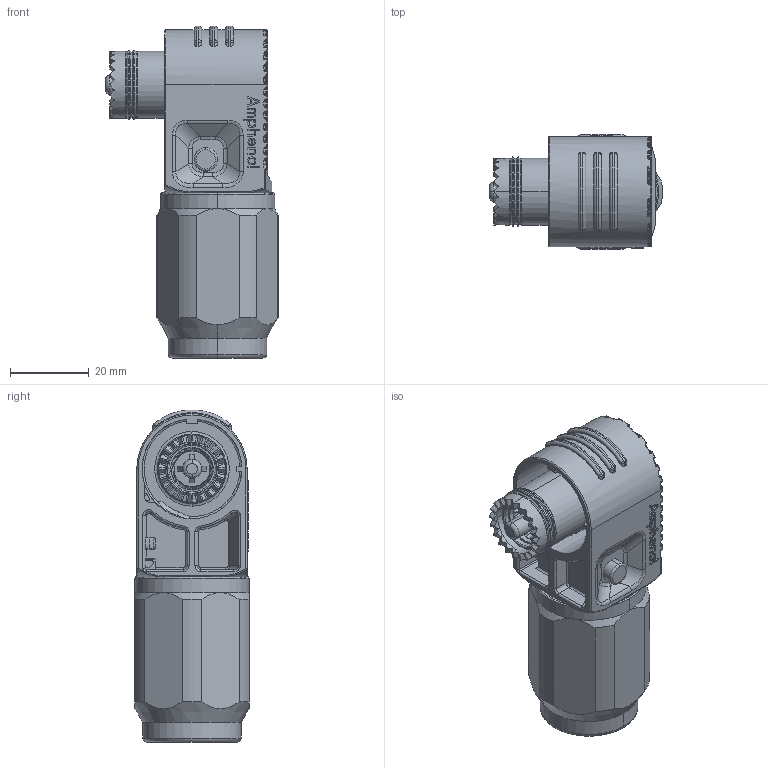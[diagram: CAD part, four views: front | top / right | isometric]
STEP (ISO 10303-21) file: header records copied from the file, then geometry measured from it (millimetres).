
FILE_DESCRIPTION((''),'2;1');
FILE_NAME('C10-730190-X800_G','2017-01-19T',('SEVEN.XIE'),(''),'PRO/ENGINEER BY PARAMETRIC TECHNOLOGY CORPORATION, 2013230','PRO/ENGINEER BY PARAMETRIC TECHNOLOGY CORPORATION, 2013230','');
FILE_SCHEMA(('CONFIG_CONTROL_DESIGN'));
Products named in the file (1): C10-730190-X800_G
Bounding box: 43.98 x 29 x 84.45 mm (x, y, z)
Volume: 41273.2 mm3; surface area: 32795.9 mm2
Topology: 1 solids, 1 shells, 1985 faces, 5244 edges, 3233 vertices
Faces by surface type: plane 893, cylinder 580, torus 218, bspline 168, sphere 68, cone 58
Entity records: 81067 total; most frequent: CARTESIAN_POINT 33506, ORIENTED_EDGE 10488, DIRECTION 9333, EDGE_CURVE 5244, AXIS2_PLACEMENT_3D 3302, VERTEX_POINT 3233, VECTOR 2729, LINE 2729
